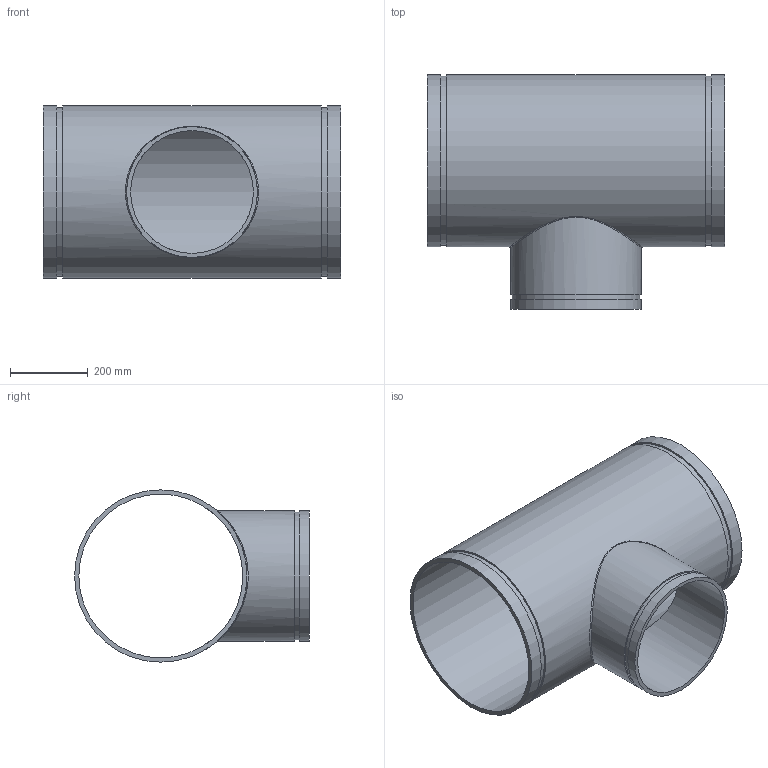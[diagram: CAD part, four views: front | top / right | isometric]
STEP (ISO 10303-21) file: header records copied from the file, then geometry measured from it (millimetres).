
FILE_DESCRIPTION(/* description */ ('VIC REDUCING TEE No 25-C','CAx-IF Rec.Pracs.---Representation and Presentation of Product Manufacturing Information (PMI)---4.0---2014-10-13'),/* implementation_level */ '2;1');
FILE_NAME(/* name */ 'C:\Users\Vjadhav\AppData\Roaming\Autodesk\ApplicationPlugins\Back Up\Victaulic_AWWA_Tee Reducing_No 25-C (DRG)\Victaulic_AWWA_Tee Reducing_No 25-C (DRG)_16.0x12.0 (400x300).stp',/* time_stamp */ '2020-08-18T18:18:20+06:00',/* author */ ('CORINNE GRAY'),/* organization */ ('Victaulic'),/* preprocessor_version */ 'ST-DEVELOPER v17.2',/* originating_system */ 'Autodesk Inventor 2019',/* authorisation */ '');
FILE_SCHEMA (('AP242_MANAGED_MODEL_BASED_3D_ENGINEERING_MIM_LF { 1 0 10303 442 1 1 4 }'));
Length unit declared in the file: inch
Products named in the file (1): 25C-16.0x12.0
Bounding box: 762 x 601.98 x 441.96 mm (x, y, z)
Volume: 12122900.8 mm3; surface area: 2360941.1 mm2
Topology: 1 solids, 1 shells, 20 faces, 44 edges, 33 vertices
Faces by surface type: cylinder 10, plane 9, bspline 1
Full cylindrical faces by diameter (mm): 314.96 x1, 327.812 x1, 335.28 x2, 420.116 x1, 433.4 x2, 441.96 x3
Entity records: 1096 total; most frequent: CARTESIAN_POINT 472, DIRECTION 135, ORIENTED_EDGE 90, AXIS2_PLACEMENT_3D 62, EDGE_CURVE 45, VERTEX_POINT 34, EDGE_LOOP 31, CIRCLE 29
